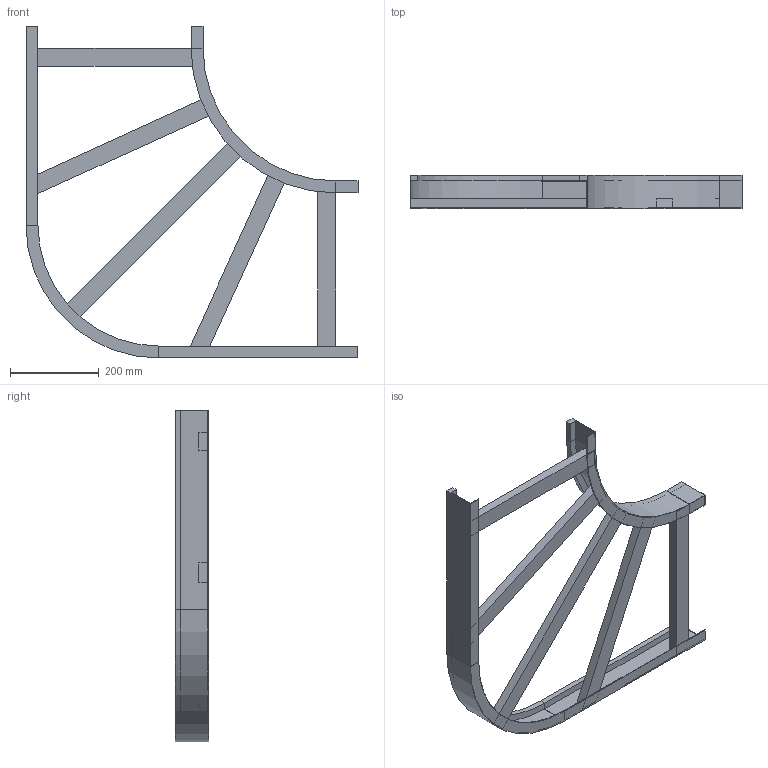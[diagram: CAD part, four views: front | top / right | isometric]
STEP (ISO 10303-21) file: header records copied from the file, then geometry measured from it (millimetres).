
FILE_DESCRIPTION (( 'STEP AP214' ), '1' );
FILE_NAME ('B2_10B3C400.step', '2025-02-21T15:26:58', ( '' ), ( '' ), 'SwSTEP 2.0', 'SolidWorks 2023', '' );
FILE_SCHEMA (( 'AUTOMOTIVE_DESIGN' ));
Length unit declared in the file: millimetre
Products named in the file (6): B2_10B3C400; TRAVERSINO_400; TRAVERSINO_500_SCANTONATO; B2_LONGH.INTERNO 90°_H75_R300; TRAVERSINO_L560; B2_LONGH.ESTERNO 90°_H75_R300+400
Assembly tree (7 placements, depth 2):
  B2_10B3C400
    B2_LONGH.INTERNO 90°_H75_R300
    B2_LONGH.ESTERNO 90°_H75_R300+400
    TRAVERSINO_400  x2
    TRAVERSINO_500_SCANTONATO  x2
    TRAVERSINO_L560
Bounding box: 750 x 75 x 750 mm (x, y, z)
Volume: 2610681.3 mm3; surface area: 744505.2 mm2
Topology: 7 solids, 7 shells, 82 faces, 172 edges, 104 vertices
Faces by surface type: plane 74, cylinder 8
Entity records: 2015 total; most frequent: DIRECTION 324, CARTESIAN_POINT 316, ORIENTED_EDGE 296, EDGE_CURVE 148, LINE 132, VECTOR 132, AXIS2_PLACEMENT_3D 96, VERTEX_POINT 88
